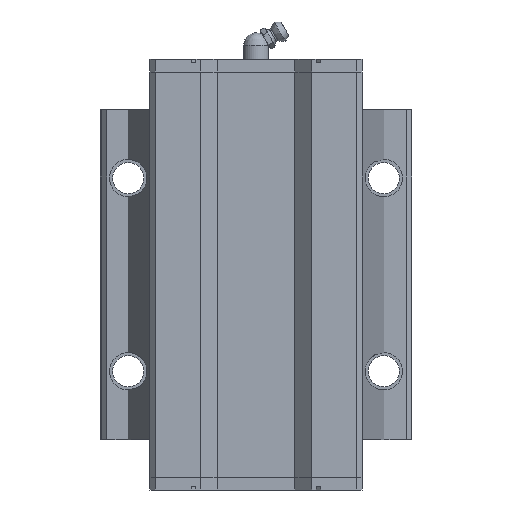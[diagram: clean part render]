
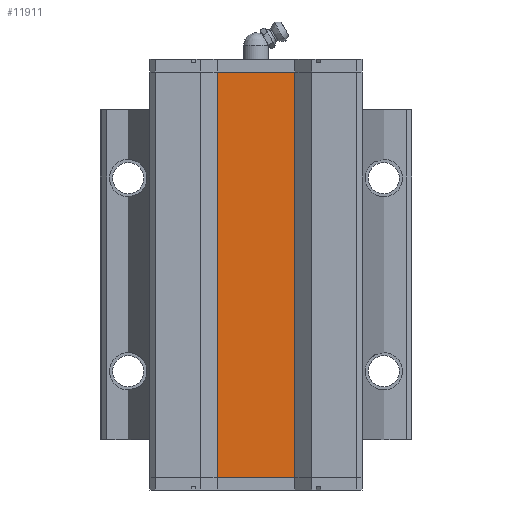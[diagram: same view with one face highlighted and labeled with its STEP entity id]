
A CAD part, front view. The second image highlights one B-rep face of the part: STEP entity #11911.
In plain terms, the highlighted planar face has unit normal (0, -1, 0).
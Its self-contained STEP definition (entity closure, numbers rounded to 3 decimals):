
#1211 = ORIENTED_EDGE ( 'NONE', *, *, #8370, .T. ) ;
#1597 = FACE_OUTER_BOUND ( 'NONE', #10024, .T. ) ;
#1777 = VECTOR ( 'NONE', #4829, 1000. ) ;
#2262 = ORIENTED_EDGE ( 'NONE', *, *, #9121, .T. ) ;
#2564 = LINE ( 'NONE', #3747, #10360 ) ;
#3097 = VERTEX_POINT ( 'NONE', #7548 ) ;
#3144 = EDGE_CURVE ( 'NONE', #7118, #3097, #4387, .T. ) ;
#3432 = CARTESIAN_POINT ( 'NONE',  ( 12.464, 21.6, -65.05 ) ) ;
#3467 = CARTESIAN_POINT ( 'NONE',  ( -12.464, 21.6, -65.05 ) ) ;
#3492 = LINE ( 'NONE', #10953, #5808 ) ;
#3687 = AXIS2_PLACEMENT_3D ( 'NONE', #3432, #5451, #12293 ) ;
#3747 = CARTESIAN_POINT ( 'NONE',  ( 34.02, 21.6, -65.05 ) ) ;
#3949 = CARTESIAN_POINT ( 'NONE',  ( -12.464, 21.6, -65.05 ) ) ;
#3988 = VECTOR ( 'NONE', #10294, 1000. ) ;
#4387 = LINE ( 'NONE', #8707, #1777 ) ;
#4829 = DIRECTION ( 'NONE',  ( -1., 0., 0. ) ) ;
#4990 = ORIENTED_EDGE ( 'NONE', *, *, #3144, .T. ) ;
#5451 = DIRECTION ( 'NONE',  ( 0., 1., 0. ) ) ;
#5808 = VECTOR ( 'NONE', #11965, 1000. ) ;
#5826 = VERTEX_POINT ( 'NONE', #10035 ) ;
#7118 = VERTEX_POINT ( 'NONE', #8589 ) ;
#7548 = CARTESIAN_POINT ( 'NONE',  ( -12.464, 21.6, 65.05 ) ) ;
#8370 = EDGE_CURVE ( 'NONE', #10353, #5826, #2564, .T. ) ;
#8589 = CARTESIAN_POINT ( 'NONE',  ( 12.464, 21.6, 65.05 ) ) ;
#8707 = CARTESIAN_POINT ( 'NONE',  ( 34.02, 21.6, 65.05 ) ) ;
#8835 = EDGE_CURVE ( 'NONE', #10353, #3097, #11166, .T. ) ;
#9121 = EDGE_CURVE ( 'NONE', #5826, #7118, #3492, .T. ) ;
#9328 = PLANE ( 'NONE',  #3687 ) ;
#9857 = ORIENTED_EDGE ( 'NONE', *, *, #8835, .F. ) ;
#10024 = EDGE_LOOP ( 'NONE', ( #2262, #4990, #9857, #1211 ) ) ;
#10035 = CARTESIAN_POINT ( 'NONE',  ( 12.464, 21.6, -65.05 ) ) ;
#10294 = DIRECTION ( 'NONE',  ( 0., 0., 1. ) ) ;
#10353 = VERTEX_POINT ( 'NONE', #3949 ) ;
#10360 = VECTOR ( 'NONE', #10575, 1000. ) ;
#10575 = DIRECTION ( 'NONE',  ( 1., 0., 0. ) ) ;
#10953 = CARTESIAN_POINT ( 'NONE',  ( 12.464, 21.6, -65.05 ) ) ;
#11166 = LINE ( 'NONE', #3467, #3988 ) ;
#11911 = ADVANCED_FACE ( 'NONE', ( #1597 ), #9328, .F. ) ;
#11965 = DIRECTION ( 'NONE',  ( 0., 0., 1. ) ) ;
#12293 = DIRECTION ( 'NONE',  ( 1., 0., 0. ) ) ;
